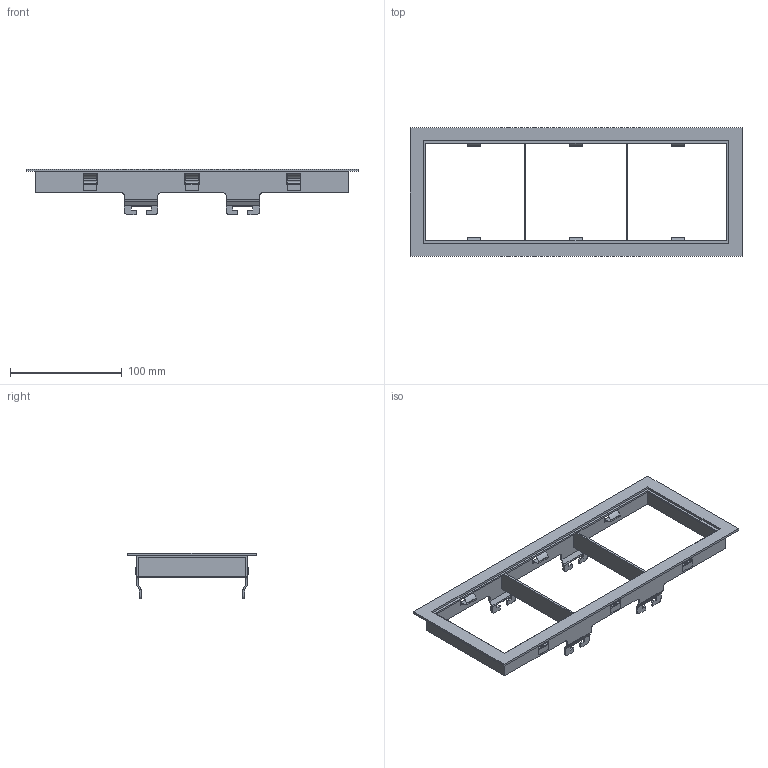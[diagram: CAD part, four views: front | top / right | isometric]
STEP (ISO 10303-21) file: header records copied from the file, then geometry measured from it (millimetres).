
FILE_DESCRIPTION(/* description */ (''),/* implementation_level */ '2;1');
FILE_NAME(/* name */ 'C:\Users\FrancoSartori\Documents\FARO\01_En Proceso\0000_2022\000_PRO\000_PODIUM\03_Publicación\01 PODIUM EMPOTRADO CON MARCO 3.stp',/* time_stamp */ '2022-05-12T13:41:42+02:00',/* author */ ('FrancoSartori'),/* organization */ (''),/* preprocessor_version */ 'ST-DEVELOPER v19',/* originating_system */ 'AutoCAD Mechanical',/* authorisation */ '');
FILE_SCHEMA (('AUTOMOTIVE_DESIGN { 1 0 10303 214 3 1 1 }'));
Length unit declared in the file: millimetre
Products named in the file (2): Product; 01 PODIUM EMPOTRADO CON MARCO 3_ - Lamp-671217-View 1
Assembly tree (1 placements, depth 2):
  Product
    01 PODIUM EMPOTRADO CON MARCO 3_ - Lamp-671217-View 1
Bounding box: 297 x 115 x 40.71 mm (x, y, z)
Volume: 50585.8 mm3; surface area: 67398 mm2
Topology: 7 solids, 7 shells, 225 faces, 652 edges, 432 vertices
Faces by surface type: plane 165, cylinder 60
Entity records: 7449 total; most frequent: CARTESIAN_POINT 1312, ORIENTED_EDGE 1304, DIRECTION 1228, EDGE_CURVE 652, LINE 532, VECTOR 532, VERTEX_POINT 432, AXIS2_PLACEMENT_3D 348
